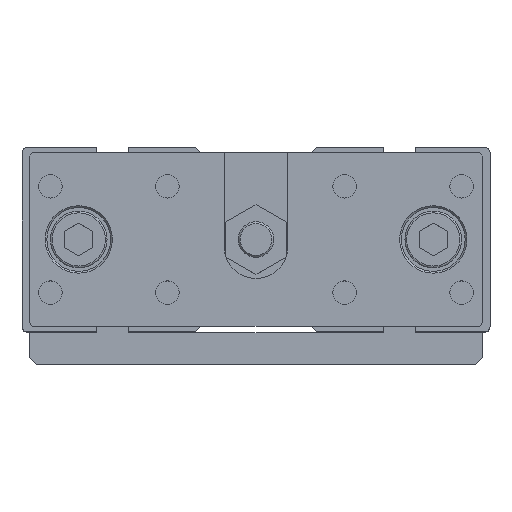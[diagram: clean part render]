
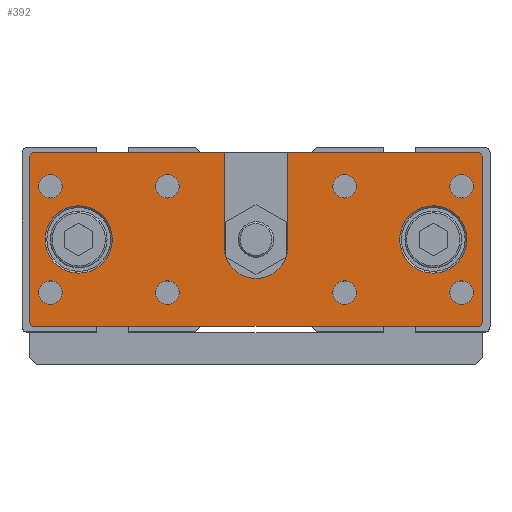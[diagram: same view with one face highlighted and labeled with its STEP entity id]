
A CAD part, top view. The second image highlights one B-rep face of the part: STEP entity #392.
In plain terms, the highlighted planar face has unit normal (0, 0, 1).
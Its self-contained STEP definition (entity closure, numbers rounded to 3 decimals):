
#174=CARTESIAN_POINT('',(-40.5,0.,107.0));
#175=VERTEX_POINT('',#174);
#176=CARTESIAN_POINT('',(-50.0,0.0,107.0));
#177=DIRECTION('',(0.0,0.0,1.0));
#178=DIRECTION('',(-1.0,0.0,0.0));
#179=AXIS2_PLACEMENT_3D('',#176,#177,#178);
#180=CIRCLE('',#179,9.5);
#181=EDGE_CURVE('',#175,#175,#180,.T.);
#186=CARTESIAN_POINT('',(0.0,-24.5,107.0));
#187=DIRECTION('',(0.0,0.0,1.0));
#188=DIRECTION('',(1.0,0.0,0.0));
#189=AXIS2_PLACEMENT_3D('',#186,#187,#188);
#190=PLANE('',#189);
#191=CARTESIAN_POINT('',(-63.,-24.5,107.0));
#192=VERTEX_POINT('',#191);
#193=CARTESIAN_POINT('',(-64.0,-23.5,107.0));
#194=VERTEX_POINT('',#193);
#195=CARTESIAN_POINT('',(-63.,-24.5,107.0));
#196=DIRECTION('',(-0.707,0.707,0.0));
#197=VECTOR('',#196,1.414);
#198=LINE('',#195,#197);
#199=EDGE_CURVE('',#192,#194,#198,.T.);
#200=ORIENTED_EDGE('',*,*,#199,.F.);
#201=CARTESIAN_POINT('',(63.,-24.5,107.0));
#202=VERTEX_POINT('',#201);
#203=CARTESIAN_POINT('',(-63.,-24.5,107.0));
#204=DIRECTION('',(1.0,0.0,0.0));
#205=VECTOR('',#204,126.);
#206=LINE('',#203,#205);
#207=EDGE_CURVE('',#192,#202,#206,.T.);
#208=ORIENTED_EDGE('',*,*,#207,.T.);
#209=CARTESIAN_POINT('',(64.0,-23.5,107.0));
#210=VERTEX_POINT('',#209);
#211=CARTESIAN_POINT('',(64.0,-23.5,107.0));
#212=DIRECTION('',(-0.707,-0.707,0.0));
#213=VECTOR('',#212,1.414);
#214=LINE('',#211,#213);
#215=EDGE_CURVE('',#210,#202,#214,.T.);
#216=ORIENTED_EDGE('',*,*,#215,.F.);
#217=CARTESIAN_POINT('',(64.0,23.5,107.0));
#218=VERTEX_POINT('',#217);
#219=CARTESIAN_POINT('',(64.0,-23.5,107.0));
#220=DIRECTION('',(0.0,1.0,0.0));
#221=VECTOR('',#220,47.);
#222=LINE('',#219,#221);
#223=EDGE_CURVE('',#210,#218,#222,.T.);
#224=ORIENTED_EDGE('',*,*,#223,.T.);
#225=CARTESIAN_POINT('',(63.,24.5,107.0));
#226=VERTEX_POINT('',#225);
#227=CARTESIAN_POINT('',(63.,24.5,107.0));
#228=DIRECTION('',(0.707,-0.707,0.0));
#229=VECTOR('',#228,1.414);
#230=LINE('',#227,#229);
#231=EDGE_CURVE('',#226,#218,#230,.T.);
#232=ORIENTED_EDGE('',*,*,#231,.F.);
#233=CARTESIAN_POINT('',(9.,24.5,107.0));
#234=VERTEX_POINT('',#233);
#235=CARTESIAN_POINT('',(63.,24.5,107.0));
#236=DIRECTION('',(-1.0,0.0,0.0));
#237=VECTOR('',#236,54.0);
#238=LINE('',#235,#237);
#239=EDGE_CURVE('',#226,#234,#238,.T.);
#240=ORIENTED_EDGE('',*,*,#239,.T.);
#241=CARTESIAN_POINT('',(9.,-2.,107.0));
#242=VERTEX_POINT('',#241);
#243=CARTESIAN_POINT('',(9.,24.5,107.0));
#244=DIRECTION('',(0.0,-1.0,0.0));
#245=VECTOR('',#244,26.5);
#246=LINE('',#243,#245);
#247=EDGE_CURVE('',#234,#242,#246,.T.);
#248=ORIENTED_EDGE('',*,*,#247,.T.);
#249=CARTESIAN_POINT('',(-9.,-2.,107.0));
#250=VERTEX_POINT('',#249);
#251=CARTESIAN_POINT('',(0.0,-2.,107.0));
#252=DIRECTION('',(0.0,0.0,-1.0));
#253=DIRECTION('',(1.0,0.0,0.0));
#254=AXIS2_PLACEMENT_3D('',#251,#252,#253);
#255=CIRCLE('',#254,9.);
#256=EDGE_CURVE('',#242,#250,#255,.T.);
#257=ORIENTED_EDGE('',*,*,#256,.T.);
#258=CARTESIAN_POINT('',(-9.,24.5,107.0));
#259=VERTEX_POINT('',#258);
#260=CARTESIAN_POINT('',(-9.,-2.,107.0));
#261=DIRECTION('',(0.0,1.0,0.0));
#262=VECTOR('',#261,26.5);
#263=LINE('',#260,#262);
#264=EDGE_CURVE('',#250,#259,#263,.T.);
#265=ORIENTED_EDGE('',*,*,#264,.T.);
#266=CARTESIAN_POINT('',(-63.,24.5,107.0));
#267=VERTEX_POINT('',#266);
#268=CARTESIAN_POINT('',(-9.,24.5,107.0));
#269=DIRECTION('',(-1.0,0.0,0.0));
#270=VECTOR('',#269,54.0);
#271=LINE('',#268,#270);
#272=EDGE_CURVE('',#259,#267,#271,.T.);
#273=ORIENTED_EDGE('',*,*,#272,.T.);
#274=CARTESIAN_POINT('',(-64.0,23.5,107.0));
#275=VERTEX_POINT('',#274);
#276=CARTESIAN_POINT('',(-64.0,23.5,107.0));
#277=DIRECTION('',(0.707,0.707,0.0));
#278=VECTOR('',#277,1.414);
#279=LINE('',#276,#278);
#280=EDGE_CURVE('',#275,#267,#279,.T.);
#281=ORIENTED_EDGE('',*,*,#280,.F.);
#282=CARTESIAN_POINT('',(-64.0,23.5,107.0));
#283=DIRECTION('',(0.0,-1.0,0.0));
#284=VECTOR('',#283,47.);
#285=LINE('',#282,#284);
#286=EDGE_CURVE('',#275,#194,#285,.T.);
#287=ORIENTED_EDGE('',*,*,#286,.T.);
#288=EDGE_LOOP('',(#200,#208,#216,#224,#232,#240,#248,#257,#265,#273,#281,#287));
#289=FACE_OUTER_BOUND('',#288,.T.);
#290=CARTESIAN_POINT('',(59.5,0.,107.0));
#291=VERTEX_POINT('',#290);
#292=CARTESIAN_POINT('',(50.0,0.0,107.0));
#293=DIRECTION('',(0.0,0.0,1.0));
#294=DIRECTION('',(-1.0,0.0,0.0));
#295=AXIS2_PLACEMENT_3D('',#292,#293,#294);
#296=CIRCLE('',#295,9.5);
#297=EDGE_CURVE('',#291,#291,#296,.T.);
#298=ORIENTED_EDGE('',*,*,#297,.F.);
#299=EDGE_LOOP('',(#298));
#300=FACE_BOUND('',#299,.T.);
#301=CARTESIAN_POINT('',(28.323,-15.0,107.0));
#302=VERTEX_POINT('',#301);
#303=CARTESIAN_POINT('',(25.0,-15.0,107.0));
#304=DIRECTION('',(0.0,0.0,-1.0));
#305=DIRECTION('',(1.0,0.0,0.0));
#306=AXIS2_PLACEMENT_3D('',#303,#304,#305);
#307=CIRCLE('',#306,3.324);
#308=EDGE_CURVE('',#302,#302,#307,.T.);
#309=ORIENTED_EDGE('',*,*,#308,.T.);
#310=EDGE_LOOP('',(#309));
#311=FACE_BOUND('',#310,.T.);
#312=CARTESIAN_POINT('',(-21.677,-15.0,107.0));
#313=VERTEX_POINT('',#312);
#314=CARTESIAN_POINT('',(-25.0,-15.0,107.0));
#315=DIRECTION('',(0.0,0.0,-1.0));
#316=DIRECTION('',(1.0,0.0,0.0));
#317=AXIS2_PLACEMENT_3D('',#314,#315,#316);
#318=CIRCLE('',#317,3.324);
#319=EDGE_CURVE('',#313,#313,#318,.T.);
#320=ORIENTED_EDGE('',*,*,#319,.T.);
#321=EDGE_LOOP('',(#320));
#322=FACE_BOUND('',#321,.T.);
#323=CARTESIAN_POINT('',(28.323,15.0,107.0));
#324=VERTEX_POINT('',#323);
#325=CARTESIAN_POINT('',(25.0,15.0,107.0));
#326=DIRECTION('',(0.0,0.0,-1.0));
#327=DIRECTION('',(1.0,0.0,0.0));
#328=AXIS2_PLACEMENT_3D('',#325,#326,#327);
#329=CIRCLE('',#328,3.324);
#330=EDGE_CURVE('',#324,#324,#329,.T.);
#331=ORIENTED_EDGE('',*,*,#330,.T.);
#332=EDGE_LOOP('',(#331));
#333=FACE_BOUND('',#332,.T.);
#334=CARTESIAN_POINT('',(61.324,-15.0,107.0));
#335=VERTEX_POINT('',#334);
#336=CARTESIAN_POINT('',(58.,-15.0,107.0));
#337=DIRECTION('',(0.0,0.0,-1.0));
#338=DIRECTION('',(1.0,0.0,0.0));
#339=AXIS2_PLACEMENT_3D('',#336,#337,#338);
#340=CIRCLE('',#339,3.324);
#341=EDGE_CURVE('',#335,#335,#340,.T.);
#342=ORIENTED_EDGE('',*,*,#341,.T.);
#343=EDGE_LOOP('',(#342));
#344=FACE_BOUND('',#343,.T.);
#345=CARTESIAN_POINT('',(-54.677,-15.0,107.0));
#346=VERTEX_POINT('',#345);
#347=CARTESIAN_POINT('',(-58.,-15.0,107.0));
#348=DIRECTION('',(0.0,0.0,-1.0));
#349=DIRECTION('',(1.0,0.0,0.0));
#350=AXIS2_PLACEMENT_3D('',#347,#348,#349);
#351=CIRCLE('',#350,3.324);
#352=EDGE_CURVE('',#346,#346,#351,.T.);
#353=ORIENTED_EDGE('',*,*,#352,.T.);
#354=EDGE_LOOP('',(#353));
#355=FACE_BOUND('',#354,.T.);
#356=CARTESIAN_POINT('',(61.324,15.0,107.0));
#357=VERTEX_POINT('',#356);
#358=CARTESIAN_POINT('',(58.,15.0,107.0));
#359=DIRECTION('',(0.0,0.0,-1.0));
#360=DIRECTION('',(1.0,0.0,0.0));
#361=AXIS2_PLACEMENT_3D('',#358,#359,#360);
#362=CIRCLE('',#361,3.324);
#363=EDGE_CURVE('',#357,#357,#362,.T.);
#364=ORIENTED_EDGE('',*,*,#363,.T.);
#365=EDGE_LOOP('',(#364));
#366=FACE_BOUND('',#365,.T.);
#367=CARTESIAN_POINT('',(-21.677,15.0,107.0));
#368=VERTEX_POINT('',#367);
#369=CARTESIAN_POINT('',(-25.0,15.0,107.0));
#370=DIRECTION('',(0.0,0.0,-1.0));
#371=DIRECTION('',(1.0,0.0,0.0));
#372=AXIS2_PLACEMENT_3D('',#369,#370,#371);
#373=CIRCLE('',#372,3.324);
#374=EDGE_CURVE('',#368,#368,#373,.T.);
#375=ORIENTED_EDGE('',*,*,#374,.T.);
#376=EDGE_LOOP('',(#375));
#377=FACE_BOUND('',#376,.T.);
#378=CARTESIAN_POINT('',(-54.677,15.0,107.0));
#379=VERTEX_POINT('',#378);
#380=CARTESIAN_POINT('',(-58.,15.0,107.0));
#381=DIRECTION('',(0.0,0.0,-1.0));
#382=DIRECTION('',(1.0,0.0,0.0));
#383=AXIS2_PLACEMENT_3D('',#380,#381,#382);
#384=CIRCLE('',#383,3.324);
#385=EDGE_CURVE('',#379,#379,#384,.T.);
#386=ORIENTED_EDGE('',*,*,#385,.T.);
#387=EDGE_LOOP('',(#386));
#388=FACE_BOUND('',#387,.T.);
#389=ORIENTED_EDGE('',*,*,#181,.F.);
#390=EDGE_LOOP('',(#389));
#391=FACE_BOUND('',#390,.T.);
#392=ADVANCED_FACE('',(#289,#300,#311,#322,#333,#344,#355,#366,#377,#388,#391),#190,.T.);
